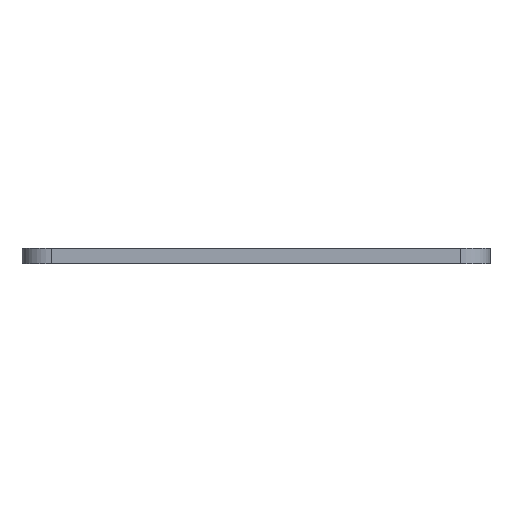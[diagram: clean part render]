
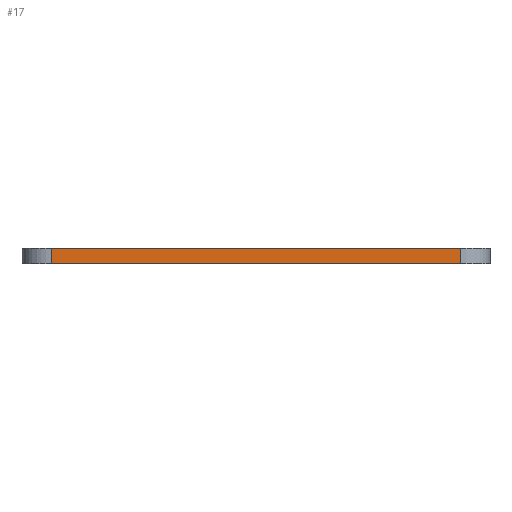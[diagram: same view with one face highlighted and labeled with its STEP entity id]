
A CAD part, left-side view. The second image highlights one B-rep face of the part: STEP entity #17.
In plain terms, the highlighted planar face has unit normal (-1, 0, 0).
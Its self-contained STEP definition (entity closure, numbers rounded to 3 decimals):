
#17 = ADVANCED_FACE('',(#18),#32,.T.);
#18 = FACE_BOUND('',#19,.T.);
#19 = EDGE_LOOP('',(#20,#55,#83,#111));
#20 = ORIENTED_EDGE('',*,*,#21,.T.);
#21 = EDGE_CURVE('',#22,#24,#26,.T.);
#22 = VERTEX_POINT('',#23);
#23 = CARTESIAN_POINT('',(0.,3.,0.));
#24 = VERTEX_POINT('',#25);
#25 = CARTESIAN_POINT('',(0.,3.,1.6));
#26 = SURFACE_CURVE('',#27,(#31,#43),.PCURVE_S1.);
#27 = LINE('',#28,#29);
#28 = CARTESIAN_POINT('',(0.,3.,0.));
#29 = VECTOR('',#30,1.);
#30 = DIRECTION('',(0.,0.,1.));
#31 = PCURVE('',#32,#37);
#32 = PLANE('',#33);
#33 = AXIS2_PLACEMENT_3D('',#34,#35,#36);
#34 = CARTESIAN_POINT('',(0.,3.,0.));
#35 = DIRECTION('',(-1.,0.,0.));
#36 = DIRECTION('',(0.,1.,0.));
#37 = DEFINITIONAL_REPRESENTATION('',(#38),#42);
#38 = LINE('',#39,#40);
#39 = CARTESIAN_POINT('',(0.,0.));
#40 = VECTOR('',#41,1.);
#41 = DIRECTION('',(0.,-1.));
#42 = ( GEOMETRIC_REPRESENTATION_CONTEXT(2) 
PARAMETRIC_REPRESENTATION_CONTEXT() REPRESENTATION_CONTEXT('2D SPACE',''
  ) );
#43 = PCURVE('',#44,#49);
#44 = CYLINDRICAL_SURFACE('',#45,3.);
#45 = AXIS2_PLACEMENT_3D('',#46,#47,#48);
#46 = CARTESIAN_POINT('',(3.,3.,0.));
#47 = DIRECTION('',(0.,0.,-1.));
#48 = DIRECTION('',(0.,-1.,0.));
#49 = DEFINITIONAL_REPRESENTATION('',(#50),#54);
#50 = LINE('',#51,#52);
#51 = CARTESIAN_POINT('',(1.571,0.));
#52 = VECTOR('',#53,1.);
#53 = DIRECTION('',(0.,-1.));
#54 = ( GEOMETRIC_REPRESENTATION_CONTEXT(2) 
PARAMETRIC_REPRESENTATION_CONTEXT() REPRESENTATION_CONTEXT('2D SPACE',''
  ) );
#55 = ORIENTED_EDGE('',*,*,#56,.T.);
#56 = EDGE_CURVE('',#24,#57,#59,.T.);
#57 = VERTEX_POINT('',#58);
#58 = CARTESIAN_POINT('',(0.,45.,1.6));
#59 = SURFACE_CURVE('',#60,(#64,#71),.PCURVE_S1.);
#60 = LINE('',#61,#62);
#61 = CARTESIAN_POINT('',(0.,3.,1.6));
#62 = VECTOR('',#63,1.);
#63 = DIRECTION('',(0.,1.,0.));
#64 = PCURVE('',#32,#65);
#65 = DEFINITIONAL_REPRESENTATION('',(#66),#70);
#66 = LINE('',#67,#68);
#67 = CARTESIAN_POINT('',(0.,-1.6));
#68 = VECTOR('',#69,1.);
#69 = DIRECTION('',(1.,0.));
#70 = ( GEOMETRIC_REPRESENTATION_CONTEXT(2) 
PARAMETRIC_REPRESENTATION_CONTEXT() REPRESENTATION_CONTEXT('2D SPACE',''
  ) );
#71 = PCURVE('',#72,#77);
#72 = PLANE('',#73);
#73 = AXIS2_PLACEMENT_3D('',#74,#75,#76);
#74 = CARTESIAN_POINT('',(24.,24.,1.6));
#75 = DIRECTION('',(-0.,-0.,-1.));
#76 = DIRECTION('',(-1.,0.,0.));
#77 = DEFINITIONAL_REPRESENTATION('',(#78),#82);
#78 = LINE('',#79,#80);
#79 = CARTESIAN_POINT('',(24.,-21.));
#80 = VECTOR('',#81,1.);
#81 = DIRECTION('',(0.,1.));
#82 = ( GEOMETRIC_REPRESENTATION_CONTEXT(2) 
PARAMETRIC_REPRESENTATION_CONTEXT() REPRESENTATION_CONTEXT('2D SPACE',''
  ) );
#83 = ORIENTED_EDGE('',*,*,#84,.F.);
#84 = EDGE_CURVE('',#85,#57,#87,.T.);
#85 = VERTEX_POINT('',#86);
#86 = CARTESIAN_POINT('',(0.,45.,0.));
#87 = SURFACE_CURVE('',#88,(#92,#99),.PCURVE_S1.);
#88 = LINE('',#89,#90);
#89 = CARTESIAN_POINT('',(0.,45.,0.));
#90 = VECTOR('',#91,1.);
#91 = DIRECTION('',(0.,0.,1.));
#92 = PCURVE('',#32,#93);
#93 = DEFINITIONAL_REPRESENTATION('',(#94),#98);
#94 = LINE('',#95,#96);
#95 = CARTESIAN_POINT('',(42.,0.));
#96 = VECTOR('',#97,1.);
#97 = DIRECTION('',(0.,-1.));
#98 = ( GEOMETRIC_REPRESENTATION_CONTEXT(2) 
PARAMETRIC_REPRESENTATION_CONTEXT() REPRESENTATION_CONTEXT('2D SPACE',''
  ) );
#99 = PCURVE('',#100,#105);
#100 = CYLINDRICAL_SURFACE('',#101,3.);
#101 = AXIS2_PLACEMENT_3D('',#102,#103,#104);
#102 = CARTESIAN_POINT('',(3.,45.,0.));
#103 = DIRECTION('',(0.,0.,-1.));
#104 = DIRECTION('',(-1.,0.,-0.));
#105 = DEFINITIONAL_REPRESENTATION('',(#106),#110);
#106 = LINE('',#107,#108);
#107 = CARTESIAN_POINT('',(0.,0.));
#108 = VECTOR('',#109,1.);
#109 = DIRECTION('',(0.,-1.));
#110 = ( GEOMETRIC_REPRESENTATION_CONTEXT(2) 
PARAMETRIC_REPRESENTATION_CONTEXT() REPRESENTATION_CONTEXT('2D SPACE',''
  ) );
#111 = ORIENTED_EDGE('',*,*,#112,.F.);
#112 = EDGE_CURVE('',#22,#85,#113,.T.);
#113 = SURFACE_CURVE('',#114,(#118,#125),.PCURVE_S1.);
#114 = LINE('',#115,#116);
#115 = CARTESIAN_POINT('',(0.,3.,0.));
#116 = VECTOR('',#117,1.);
#117 = DIRECTION('',(0.,1.,0.));
#118 = PCURVE('',#32,#119);
#119 = DEFINITIONAL_REPRESENTATION('',(#120),#124);
#120 = LINE('',#121,#122);
#121 = CARTESIAN_POINT('',(0.,0.));
#122 = VECTOR('',#123,1.);
#123 = DIRECTION('',(1.,0.));
#124 = ( GEOMETRIC_REPRESENTATION_CONTEXT(2) 
PARAMETRIC_REPRESENTATION_CONTEXT() REPRESENTATION_CONTEXT('2D SPACE',''
  ) );
#125 = PCURVE('',#126,#131);
#126 = PLANE('',#127);
#127 = AXIS2_PLACEMENT_3D('',#128,#129,#130);
#128 = CARTESIAN_POINT('',(24.,24.,0.));
#129 = DIRECTION('',(-0.,-0.,-1.));
#130 = DIRECTION('',(-1.,0.,0.));
#131 = DEFINITIONAL_REPRESENTATION('',(#132),#136);
#132 = LINE('',#133,#134);
#133 = CARTESIAN_POINT('',(24.,-21.));
#134 = VECTOR('',#135,1.);
#135 = DIRECTION('',(0.,1.));
#136 = ( GEOMETRIC_REPRESENTATION_CONTEXT(2) 
PARAMETRIC_REPRESENTATION_CONTEXT() REPRESENTATION_CONTEXT('2D SPACE',''
  ) );
